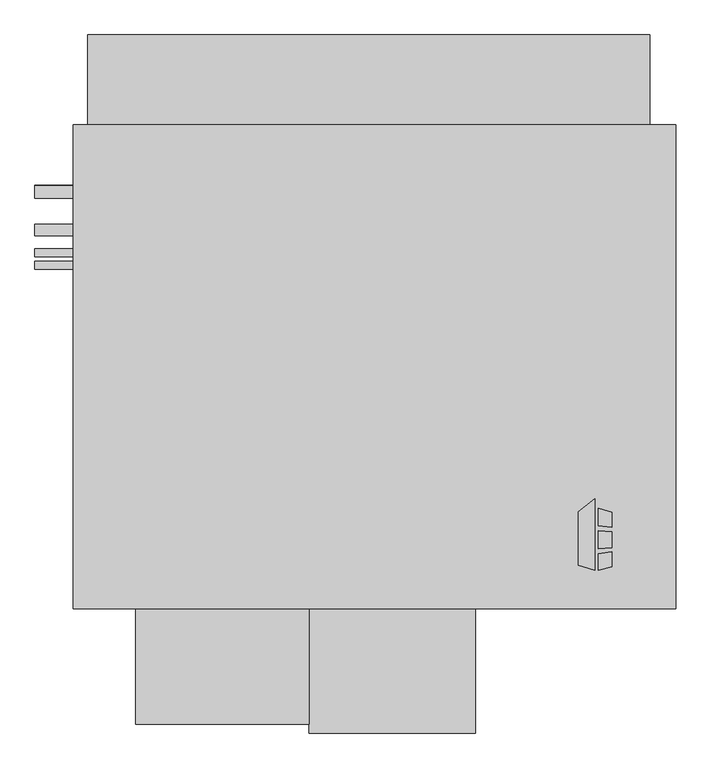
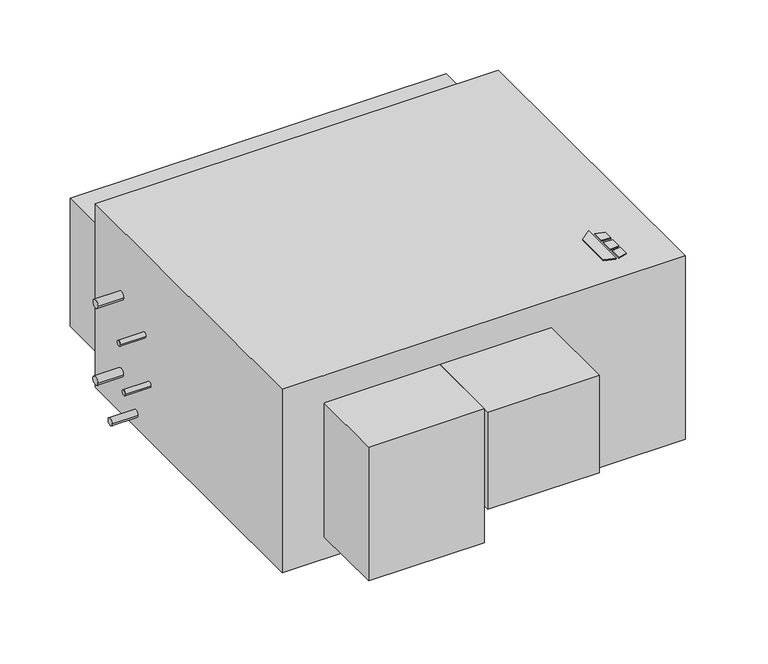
"""IFC4 building model written with IfcOpenShell, lengths in millimetres: proxy geometry, Horizontal_Direct_Drive_Blower_Coil_Unit_-_HDY_-_IEC_-_4-Pipe_LH_2022 : Size 16 - 460v/60Hz/3Ph - 6/2 Coil."""

from ifc_helpers import new_model, si_unit, point, frame, frame_2d, origin, origin_with_axes, place, context, project, spatial, polyline, circle_curve, trimmed, segment, composite_curve, outline, extrude, source, transform, mapped, element, save


def mechanical_equipment_201a702f(model_context):
    return source(origin(), model_context, "Body", "SweptSolid", [
        extrude(outline(polyline([(-65.3980239, -274.0078476), (-32.8397272, -248.5705184), (-32.8397272, -390.525), (-65.3980239, -380.3054201), (-65.3980239, -274.0078476)])), origin_with_axes(), (0.0, 0.0, 1.0), 3.175),
        extrude(outline(polyline([(-26.0813942, -301.879852), (-26.0813942, -267.3999379), (0.0, -275.5865115), (0.0, -305.0822446), (-26.0813942, -301.879852)])), origin_with_axes(), (0.0, 0.0, 1.0), 3.175),
        extrude(outline(polyline([(0.0, -383.5365115), (-26.0813942, -390.525), (-26.0813942, -357.3036996), (0.0, -353.7618564), (0.0, -383.5365115)])), origin_with_axes(), (0.0, 0.0, 1.0), 3.175),
        extrude(outline(polyline([(0.0, -314.1638277), (0.0, -345.413983), (-26.0813942, -348.155248), (-26.0813942, -312.2975378), (0.0, -314.1638277)])), origin_with_axes(), (0.0, 0.0, 1.0), 3.175),
        extrude(outline(composite_curve([segment(trimmed(circle_curve(frame_2d((358.775, -205.7657415)), 12.7), [point((371.475, -205.7657415))], [point((346.075, -205.7657415))], False, "CARTESIAN"), True, "CONTINUOUS"), segment(trimmed(circle_curve(frame_2d((358.775, -205.7657415)), 12.7), [point((346.075, -205.7657415))], [point((371.475, -205.7657415))], False, "CARTESIAN"), True, "CONTINUOUS")], self_intersect=False)), frame((-1143.0, 0.0, 0.0), z_axis=(1.0, 0.0, 0.0), x_axis=(0.0, 1.0, 0.0)), (0.0, 0.0, 1.0), 76.2),
        extrude(outline(composite_curve([segment(trimmed(circle_curve(frame_2d((359.642288, -447.0657415)), 12.7), [point((372.342288, -447.0657415))], [point((346.942288, -447.0657415))], False, "CARTESIAN"), True, "CONTINUOUS"), segment(trimmed(circle_curve(frame_2d((359.642288, -447.0657415)), 12.7), [point((346.942288, -447.0657415))], [point((372.342288, -447.0657415))], False, "CARTESIAN"), True, "CONTINUOUS")], self_intersect=False)), frame((-1143.0, 0.0, 0.0), z_axis=(1.0, 0.0, 0.0), x_axis=(0.0, 1.0, 0.0)), (0.0, 0.0, 1.0), 76.2),
        extrude(outline(composite_curve([segment(trimmed(circle_curve(frame_2d((283.442288, -529.6157415)), 11.1125), [point((294.554788, -529.6157415))], [point((272.329788, -529.6157415))], False, "CARTESIAN"), True, "CONTINUOUS"), segment(trimmed(circle_curve(frame_2d((283.442288, -529.6157415)), 11.1125), [point((272.329788, -529.6157415))], [point((294.554788, -529.6157415))], False, "CARTESIAN"), True, "CONTINUOUS")], self_intersect=False)), frame((-1143.0, 0.0, 0.0), z_axis=(1.0, 0.0, 0.0), x_axis=(0.0, 1.0, 0.0)), (0.0, 0.0, 1.0), 76.2),
        extrude(outline(composite_curve([segment(trimmed(circle_curve(frame_2d((238.992288, -256.5657415)), 7.9375), [point((246.929788, -256.5657415))], [point((231.054788, -256.5657415))], False, "CARTESIAN"), True, "CONTINUOUS"), segment(trimmed(circle_curve(frame_2d((238.992288, -256.5657415)), 7.9375), [point((231.054788, -256.5657415))], [point((246.929788, -256.5657415))], False, "CARTESIAN"), True, "CONTINUOUS")], self_intersect=False)), frame((-1143.0, 0.0, 0.0), z_axis=(1.0, 0.0, 0.0), x_axis=(0.0, 1.0, 0.0)), (0.0, 0.0, 1.0), 76.2),
        extrude(outline(composite_curve([segment(trimmed(circle_curve(frame_2d((213.592288, -396.5449971)), 7.9375), [point((221.529788, -396.5449971))], [point((205.654788, -396.5449971))], False, "CARTESIAN"), True, "CONTINUOUS"), segment(trimmed(circle_curve(frame_2d((213.592288, -396.5449971)), 7.9375), [point((205.654788, -396.5449971))], [point((221.529788, -396.5449971))], False, "CARTESIAN"), True, "CONTINUOUS")], self_intersect=False)), frame((-1143.0, 0.0, 0.0), z_axis=(1.0, 0.0, 0.0), x_axis=(0.0, 1.0, 0.0)), (0.0, 0.0, 1.0), 76.2),
        extrude(outline(polyline([(127.0, 492.125), (127.0, -466.725), (-1066.8, -466.725), (-1066.8, 492.125), (127.0, 492.125)])), frame((0.0, 0.0, -574.0657415), z_axis=(0.0, 0.0, 1.0), x_axis=(1.0, 0.0, 0.0)), (0.0, 0.0, 1.0), 574.0657415),
        extrude(outline(polyline([(-600.075, -695.325), (-942.975, -695.325), (-942.975, -466.725), (-600.075, -466.725), (-600.075, -695.325)])), frame((0.0, 0.0, -504.2157415), z_axis=(0.0, 0.0, 1.0), x_axis=(1.0, 0.0, 0.0)), (0.0, 0.0, 1.0), 419.1),
        extrude(outline(polyline([(-1038.225, 669.925), (76.2, 669.925), (76.2, 492.125), (-1038.225, 492.125), (-1038.225, 669.925)])), frame((0.0, 0.0, -501.0407415), z_axis=(0.0, 0.0, 1.0), x_axis=(1.0, 0.0, 0.0)), (0.0, 0.0, 1.0), 400.05),
        extrude(outline(polyline([(-269.875, -712.7875), (-600.075, -712.7875), (-600.075, -466.725), (-269.875, -466.725), (-269.875, -712.7875)])), frame((0.0, 0.0, -389.9157415), z_axis=(0.0, 0.0, 1.0), x_axis=(1.0, 0.0, 0.0)), (0.0, 0.0, 1.0), 304.8),
    ])


if __name__ == "__main__":
    model = new_model("IFC4")
    model_context = context("Model", 3, world=origin())
    ifc_project = project(units=[si_unit("LENGTHUNIT", "METRE", prefix="MILLI")], contexts=[model_context])
    site = spatial("IfcSite", under=ifc_project)
    building = spatial("IfcBuilding", under=site)
    placement = place(None, origin())
    mechanical_equipment_shape = mechanical_equipment_201a702f(model_context)
    element("IfcBuildingElementProxy", 1, Name="Horizontal_Direct_Drive_Blower_Coil_Unit_-_HDY_-_IEC_-_4-Pipe_LH_2022 : Size 16 - 460v/60Hz/3Ph - 6/2 Coil", ObjectType="Horizontal_Direct_Drive_Blower_Coil_Unit_-_HDY_-_IEC_-_4-Pipe_LH_2022 : Size 16 - 460v/60Hz/3Ph - 6/2 Coil", at=placement, inside=building, context=model_context, shape_type="MappedRepresentation", body=[
        mapped(mechanical_equipment_shape, transform((0.0, 0.0, 0.0), x_axis=(1.0, 0.0, 0.0), y_axis=(0.0, 1.0, 0.0), z_axis=(0.0, 0.0, 1.0))),
    ])
    save(model, "model.ifc")
